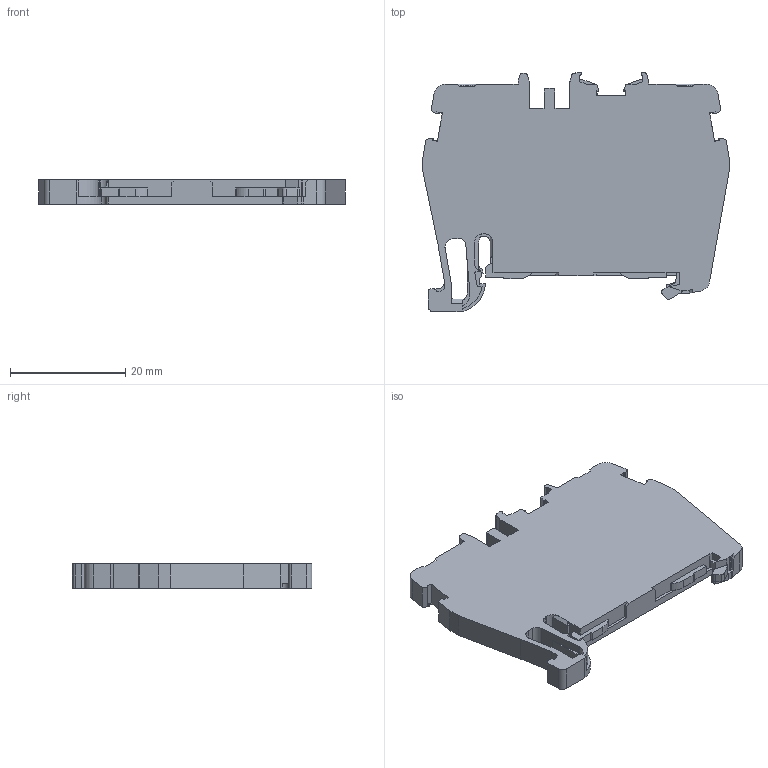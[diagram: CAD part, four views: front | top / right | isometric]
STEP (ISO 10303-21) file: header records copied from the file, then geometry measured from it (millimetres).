
FILE_DESCRIPTION (( 'STEP AP214' ), '1' );
FILE_NAME ('336440_PYK 1.5T.STP', '2015-08-07T08:09:17', ( '' ), ( '' ), 'SwSTEP 2.0', 'SolidWorks 2015', '' );
FILE_SCHEMA (( 'AUTOMOTIVE_DESIGN' ));
Length unit declared in the file: millimetre
Products named in the file (1): 336440_PYK 1.5T
Bounding box: 53.3 x 41.69 x 4.2 mm (x, y, z)
Volume: 6881.6 mm3; surface area: 4519 mm2
Topology: 1 solids, 1 shells, 316 faces, 930 edges, 618 vertices
Faces by surface type: plane 200, cylinder 99, cone 13, bspline 4
Entity records: 11504 total; most frequent: CARTESIAN_POINT 1959, ORIENTED_EDGE 1860, DIRECTION 1764, EDGE_CURVE 930, LINE 678, VECTOR 678, VERTEX_POINT 618, AXIS2_PLACEMENT_3D 543
